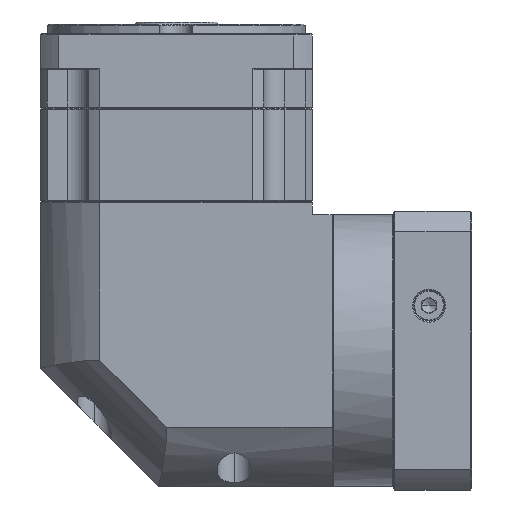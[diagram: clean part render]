
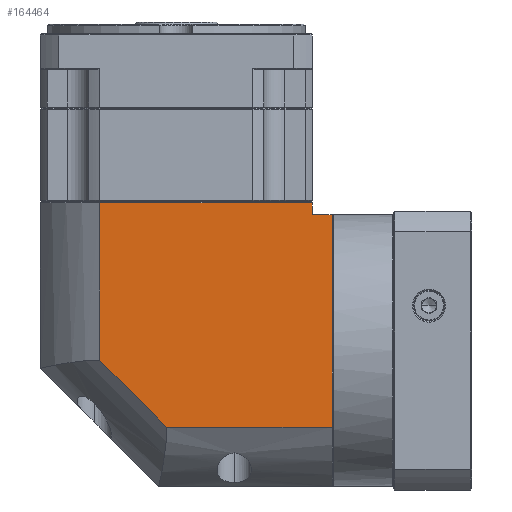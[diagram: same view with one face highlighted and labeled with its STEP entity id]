
A CAD part, left-side view. The second image highlights one B-rep face of the part: STEP entity #164464.
In plain terms, the highlighted planar face has unit normal (-1, 0, 0).
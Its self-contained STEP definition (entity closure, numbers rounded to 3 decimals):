
#1877 = DIRECTION ( 'NONE',  ( 0., 1., 0. ) ) ;
#3577 = DIRECTION ( 'NONE',  ( 0., 0.707, 0.707 ) ) ;
#22383 = EDGE_CURVE ( 'NONE', #29084, #33183, #62236, .T. ) ;
#25105 = CARTESIAN_POINT ( 'NONE',  ( 25.145, 71.313, 249.4 ) ) ;
#25787 = LINE ( 'NONE', #75789, #159946 ) ;
#26958 = FACE_OUTER_BOUND ( 'NONE', #45020, .T. ) ;
#29084 = VERTEX_POINT ( 'NONE', #66739 ) ;
#29451 = VECTOR ( 'NONE', #155262, 1000. ) ;
#31709 = DIRECTION ( 'NONE',  ( 0., 0., -1. ) ) ;
#33183 = VERTEX_POINT ( 'NONE', #159914 ) ;
#40668 = DIRECTION ( 'NONE',  ( 0., 1., 0. ) ) ;
#41785 = VECTOR ( 'NONE', #155343, 1000. ) ;
#43313 = AXIS2_PLACEMENT_3D ( 'NONE', #157597, #79747, #1877 ) ;
#45020 = EDGE_LOOP ( 'NONE', ( #59875, #65252, #83184, #149899, #153644, #57639, #111383 ) ) ;
#45034 = VECTOR ( 'NONE', #31709, 1000. ) ;
#45163 = EDGE_CURVE ( 'NONE', #151044, #168729, #141319, .T. ) ;
#49844 = CARTESIAN_POINT ( 'NONE',  ( 25.145, -18.587, 242.9 ) ) ;
#50575 = EDGE_CURVE ( 'NONE', #53852, #29084, #118725, .T. ) ;
#53852 = VERTEX_POINT ( 'NONE', #105684 ) ;
#57639 = ORIENTED_EDGE ( 'NONE', *, *, #95941, .T. ) ;
#59875 = ORIENTED_EDGE ( 'NONE', *, *, #119193, .F. ) ;
#61468 = VECTOR ( 'NONE', #162678, 1000. ) ;
#62236 = LINE ( 'NONE', #94526, #96757 ) ;
#62777 = EDGE_CURVE ( 'NONE', #161309, #145051, #161042, .T. ) ;
#63884 = DIRECTION ( 'NONE',  ( 0., 0., 1. ) ) ;
#64444 = CARTESIAN_POINT ( 'NONE',  ( 25.145, -18.587, 237.9 ) ) ;
#65252 = ORIENTED_EDGE ( 'NONE', *, *, #22383, .F. ) ;
#66739 = CARTESIAN_POINT ( 'NONE',  ( 25.145, 42.975, 148. ) ) ;
#70321 = CARTESIAN_POINT ( 'NONE',  ( 25.145, -26.987, 249.4 ) ) ;
#75789 = CARTESIAN_POINT ( 'NONE',  ( 25.145, -18.587, 122.9 ) ) ;
#79747 = DIRECTION ( 'NONE',  ( 1., 0., 0. ) ) ;
#83184 = ORIENTED_EDGE ( 'NONE', *, *, #50575, .F. ) ;
#94526 = CARTESIAN_POINT ( 'NONE',  ( 25.145, 42.975, 148. ) ) ;
#95941 = EDGE_CURVE ( 'NONE', #168729, #145051, #25787, .T. ) ;
#96757 = VECTOR ( 'NONE', #3577, 1000. ) ;
#105292 = PLANE ( 'NONE',  #43313 ) ;
#105382 = CARTESIAN_POINT ( 'NONE',  ( 25.145, 96.413, 148. ) ) ;
#105684 = CARTESIAN_POINT ( 'NONE',  ( 25.145, -26.987, 148. ) ) ;
#110047 = LINE ( 'NONE', #70321, #45034 ) ;
#111383 = ORIENTED_EDGE ( 'NONE', *, *, #62777, .F. ) ;
#114665 = VECTOR ( 'NONE', #40668, 1000. ) ;
#118725 = LINE ( 'NONE', #105382, #114665 ) ;
#119193 = EDGE_CURVE ( 'NONE', #33183, #161309, #163681, .T. ) ;
#126082 = CARTESIAN_POINT ( 'NONE',  ( 25.145, -18.587, 237.9 ) ) ;
#141319 = LINE ( 'NONE', #64444, #41785 ) ;
#145051 = VERTEX_POINT ( 'NONE', #49844 ) ;
#149856 = CARTESIAN_POINT ( 'NONE',  ( 25.145, -26.987, 237.9 ) ) ;
#149899 = ORIENTED_EDGE ( 'NONE', *, *, #154850, .F. ) ;
#150114 = CARTESIAN_POINT ( 'NONE',  ( 25.145, 96.413, 242.9 ) ) ;
#151044 = VERTEX_POINT ( 'NONE', #149856 ) ;
#153644 = ORIENTED_EDGE ( 'NONE', *, *, #45163, .T. ) ;
#154850 = EDGE_CURVE ( 'NONE', #151044, #53852, #110047, .T. ) ;
#155262 = DIRECTION ( 'NONE',  ( 0., 0., 1. ) ) ;
#155343 = DIRECTION ( 'NONE',  ( 0., 1., 0. ) ) ;
#157488 = CARTESIAN_POINT ( 'NONE',  ( 25.145, 71.313, 242.9 ) ) ;
#157597 = CARTESIAN_POINT ( 'NONE',  ( 25.145, 96.413, 249.4 ) ) ;
#159914 = CARTESIAN_POINT ( 'NONE',  ( 25.145, 71.313, 176.338 ) ) ;
#159946 = VECTOR ( 'NONE', #63884, 1000. ) ;
#161042 = LINE ( 'NONE', #150114, #61468 ) ;
#161309 = VERTEX_POINT ( 'NONE', #157488 ) ;
#162678 = DIRECTION ( 'NONE',  ( 0., -1., 0. ) ) ;
#163681 = LINE ( 'NONE', #25105, #29451 ) ;
#164464 = ADVANCED_FACE ( 'NONE', ( #26958 ), #105292, .F. ) ;
#168729 = VERTEX_POINT ( 'NONE', #126082 ) ;
